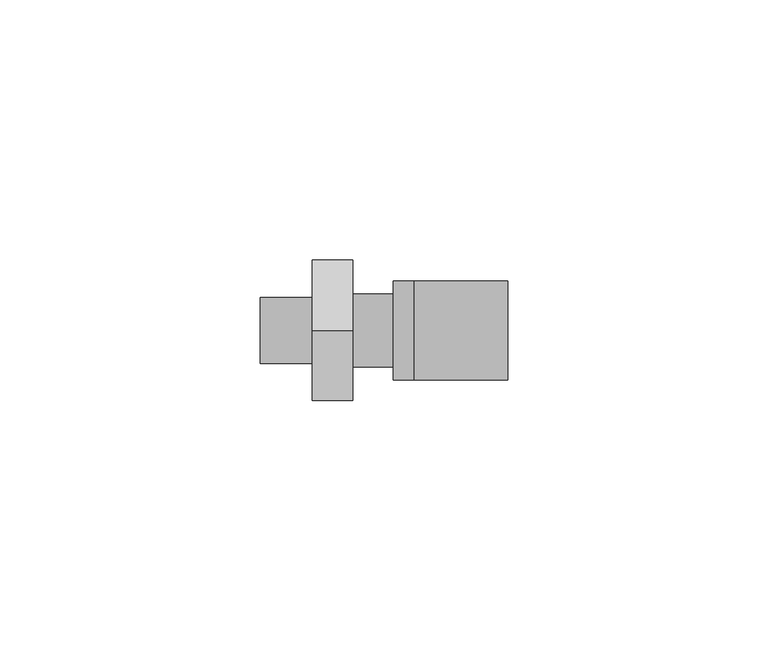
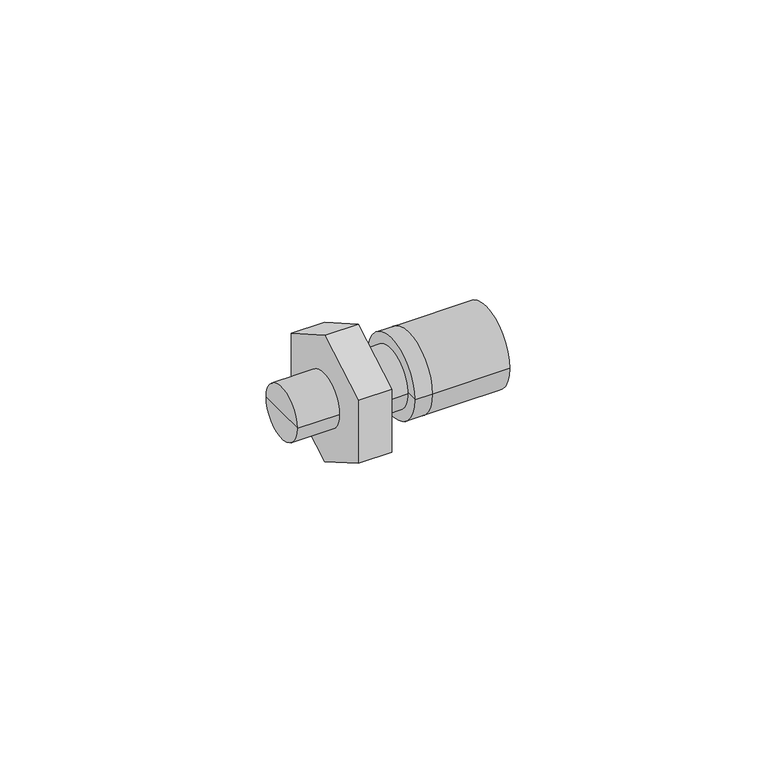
"""IFC4 building model written with IfcOpenShell, lengths in millimetres: pipe fitting geometry, KAN-therm Push złączka z gz 1-2 : KAN-therm Push złączka z gz 1-2."""

from ifc_helpers import new_model, si_unit, frame, origin, place, context, project, spatial, polyline, circle_curve, outline, extrude, source, transform, mapped, element, save
from ifc_brep_helpers import plane_surface, cylinder_surface, advanced_brep


def pipe_fitting_b0431b47(model_context):
    return source(origin(), model_context, "Body", "SolidModel", [
        advanced_brep(
        [(19.5, -9.5, 0.0), (19.5, 9.5, 0.0), (19.5, 0.0, 0.0), (15.5, -9.5, 0.0), (15.5, 9.5, 0.0), (15.5, 0.0, 0.0)],
        [
            (0, 1, circle_curve(frame((19.5, 0.0, 0.0), z_axis=(1.0, 0.0, 0.0), x_axis=(0.0, 1.0, 0.0)), 9.5)),
            (1, 2),
            (2, 0),
            (1, 0, circle_curve(frame((19.5, 0.0, 0.0), z_axis=(1.0, 0.0, 0.0), x_axis=(0.0, 1.0, 0.0)), 9.5)),
            (3, 4, circle_curve(frame((15.5, 0.0, 0.0), z_axis=(1.0, 0.0, 0.0), x_axis=(0.0, 1.0, 0.0)), 9.5)),
            (4, 1),
            (0, 3),
            (4, 3, circle_curve(frame((15.5, 0.0, 0.0), z_axis=(1.0, 0.0, 0.0), x_axis=(0.0, 1.0, 0.0)), 9.5)),
            (5, 4),
            (3, 5),
        ],
        [
            plane_surface(frame((19.5, 0.0, 0.0), z_axis=(1.0, 0.0, 0.0), x_axis=(0.0, 1.0, 0.0))),
            cylinder_surface(frame((2014.5, 0.0, 0.0), z_axis=(-1.0, 0.0, 0.0), x_axis=(0.0, 1.0, 0.0)), 9.5),
            plane_surface(frame((15.5, 0.0, 0.0), z_axis=(-1.0, 0.0, 0.0), x_axis=(0.0, 1.0, 0.0))),
        ],
        [
            (0, [[1, 2, 3]]),
            (0, [[4, -3, -2]]),
            (1, [[5, 6, -1, 7]]),
            (1, [[8, -7, -4, -6]]),
            (2, [[9, -5, 10]]),
            (2, [[-10, -8, -9]]),
        ],
    ),
        advanced_brep(
        [(37.5, -9.5, 0.0), (37.5, 9.5, 0.0), (37.5, 0.0, 0.0), (19.5, -9.5, 0.0), (19.5, 9.5, 0.0), (19.5, 0.0, 0.0)],
        [
            (0, 1, circle_curve(frame((37.5, 0.0, 0.0), z_axis=(1.0, 0.0, 0.0), x_axis=(0.0, 1.0, 0.0)), 9.5)),
            (1, 2),
            (2, 0),
            (1, 0, circle_curve(frame((37.5, 0.0, 0.0), z_axis=(1.0, 0.0, 0.0), x_axis=(0.0, 1.0, 0.0)), 9.5)),
            (3, 4, circle_curve(frame((19.5, 0.0, 0.0), z_axis=(1.0, 0.0, 0.0), x_axis=(0.0, 1.0, 0.0)), 9.5)),
            (4, 1),
            (0, 3),
            (4, 3, circle_curve(frame((19.5, 0.0, 0.0), z_axis=(1.0, 0.0, 0.0), x_axis=(0.0, 1.0, 0.0)), 9.5)),
            (5, 4),
            (3, 5),
        ],
        [
            plane_surface(frame((37.5, 0.0, 0.0), z_axis=(1.0, 0.0, 0.0), x_axis=(0.0, 1.0, 0.0))),
            cylinder_surface(frame((2014.5, 0.0, 0.0), z_axis=(-1.0, 0.0, 0.0), x_axis=(0.0, 1.0, 0.0)), 9.5),
            plane_surface(frame((19.5, 0.0, 0.0), z_axis=(-1.0, 0.0, 0.0), x_axis=(0.0, 1.0, 0.0))),
        ],
        [
            (0, [[1, 2, 3]]),
            (0, [[4, -3, -2]]),
            (1, [[5, 6, -1, 7]]),
            (1, [[8, -7, -4, -6]]),
            (2, [[9, -5, 10]]),
            (2, [[-10, -8, -9]]),
        ],
    ),
        extrude(outline(polyline([(0.0, -15.5884573), (-13.5, -7.7942286), (-13.5, 7.7942286), (0.0, 15.5884573), (13.5, 7.7942286), (13.5, -7.7942286), (0.0, -15.5884573)])), frame((0.0, 0.0, 0.0), z_axis=(1.0, 0.0, 0.0), x_axis=(0.0, 1.0, 0.0)), (0.0, 0.0, 1.0), 7.75),
        advanced_brep(
        [(19.5, -7.0, 0.0), (19.5, 7.0, 0.0), (19.5, 0.0, 0.0), (7.75, -7.0, 0.0), (7.75, 7.0, 0.0), (7.75, 0.0, 0.0)],
        [
            (0, 1, circle_curve(frame((19.5, 0.0, 0.0), z_axis=(1.0, 0.0, 0.0), x_axis=(0.0, 1.0, 0.0)), 7.0)),
            (1, 2),
            (2, 0),
            (1, 0, circle_curve(frame((19.5, 0.0, 0.0), z_axis=(1.0, 0.0, 0.0), x_axis=(0.0, 1.0, 0.0)), 7.0)),
            (3, 4, circle_curve(frame((7.75, 0.0, 0.0), z_axis=(1.0, 0.0, 0.0), x_axis=(0.0, 1.0, 0.0)), 7.0)),
            (4, 1),
            (0, 3),
            (4, 3, circle_curve(frame((7.75, 0.0, 0.0), z_axis=(1.0, 0.0, 0.0), x_axis=(0.0, 1.0, 0.0)), 7.0)),
            (5, 4),
            (3, 5),
        ],
        [
            plane_surface(frame((19.5, 0.0, 0.0), z_axis=(1.0, 0.0, 0.0), x_axis=(0.0, 1.0, 0.0))),
            cylinder_surface(frame((2003.5, 0.0, 0.0), z_axis=(-1.0, 0.0, 0.0), x_axis=(0.0, 1.0, 0.0)), 7.0),
            plane_surface(frame((7.75, 0.0, 0.0), z_axis=(-1.0, 0.0, 0.0), x_axis=(0.0, 1.0, 0.0))),
        ],
        [
            (0, [[1, 2, 3]]),
            (0, [[4, -3, -2]]),
            (1, [[5, 6, -1, 7]]),
            (1, [[8, -7, -4, -6]]),
            (2, [[9, -5, 10]]),
            (2, [[-10, -8, -9]]),
        ],
    ),
        advanced_brep(
        [(0.0, -6.35, 0.0), (0.0, 6.35, 0.0), (0.0, 0.0, 0.0), (-10.0, -6.35, 0.0), (-10.0, 6.35, 0.0), (-10.0, 0.0, 0.0)],
        [
            (0, 1, circle_curve(frame((0.0, 0.0, 0.0), z_axis=(1.0, 0.0, 0.0), x_axis=(0.0, 1.0, 0.0)), 6.35)),
            (1, 2),
            (2, 0),
            (1, 0, circle_curve(frame((0.0, 0.0, 0.0), z_axis=(1.0, 0.0, 0.0), x_axis=(0.0, 1.0, 0.0)), 6.35)),
            (3, 4, circle_curve(frame((-10.0, 0.0, 0.0), z_axis=(1.0, 0.0, 0.0), x_axis=(0.0, 1.0, 0.0)), 6.35)),
            (4, 1),
            (0, 3),
            (4, 3, circle_curve(frame((-10.0, 0.0, 0.0), z_axis=(1.0, 0.0, 0.0), x_axis=(0.0, 1.0, 0.0)), 6.35)),
            (5, 4),
            (3, 5),
        ],
        [
            plane_surface(frame((0.0, 0.0, 0.0), z_axis=(1.0, 0.0, 0.0), x_axis=(0.0, 1.0, 0.0))),
            cylinder_surface(frame((2003.5, 0.0, 0.0), z_axis=(-1.0, 0.0, 0.0), x_axis=(0.0, 1.0, 0.0)), 6.35),
            plane_surface(frame((-10.0, 0.0, 0.0), z_axis=(-1.0, 0.0, 0.0), x_axis=(0.0, 1.0, 0.0))),
        ],
        [
            (0, [[1, 2, 3]]),
            (0, [[4, -3, -2]]),
            (1, [[5, 6, -1, 7]]),
            (1, [[8, -7, -4, -6]]),
            (2, [[9, -5, 10]]),
            (2, [[-10, -8, -9]]),
        ],
    ),
    ])


if __name__ == "__main__":
    model = new_model("IFC4")
    model_context = context("Model", 3, world=origin())
    ifc_project = project(units=[si_unit("LENGTHUNIT", "METRE", prefix="MILLI")], contexts=[model_context])
    site = spatial("IfcSite", under=ifc_project)
    building = spatial("IfcBuilding", under=site)
    placement = place(None, origin())
    pipe_fitting_shape = pipe_fitting_b0431b47(model_context)
    element("IfcPipeFitting", 1, ObjectType="KAN-therm Push złączka z gz 1-2 : KAN-therm Push złączka z gz 1-2", at=placement, inside=building, context=model_context, shape_type="MappedRepresentation", body=[
        mapped(pipe_fitting_shape, transform((0.0, 0.0, 0.0), x_axis=(1.0, 0.0, 0.0), y_axis=(0.0, 1.0, 0.0), z_axis=(0.0, 0.0, 1.0))),
    ])
    save(model, "model.ifc")
